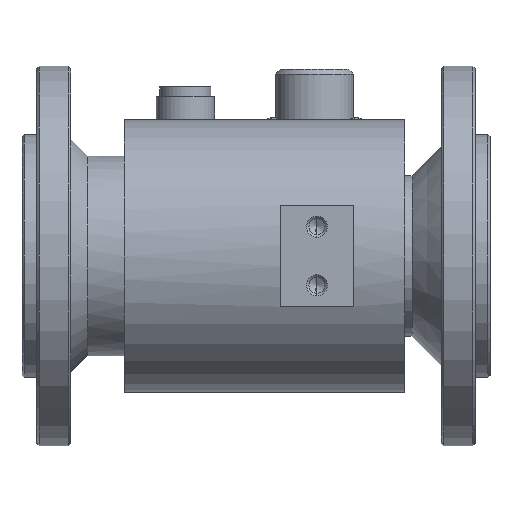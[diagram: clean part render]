
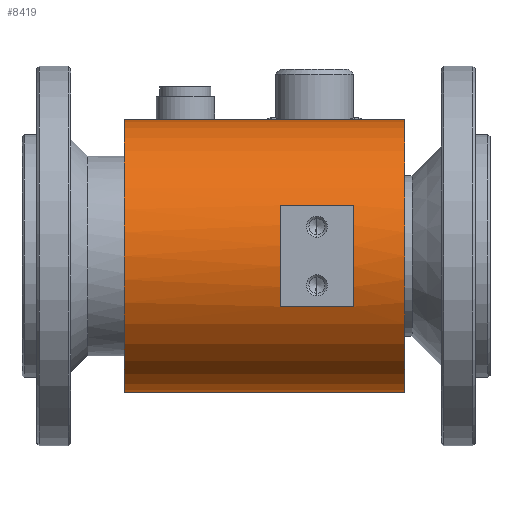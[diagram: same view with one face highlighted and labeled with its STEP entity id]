
A CAD part, front view. The second image highlights one B-rep face of the part: STEP entity #8419.
In plain terms, the highlighted cylindrical face has radius 28 mm (diameter 56 mm), a partial arc.
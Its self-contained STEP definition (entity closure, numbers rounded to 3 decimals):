
#1286 = EDGE_LOOP ( 'NONE', ( #7565, #16073, #10765, #4549 ) ) ;
#1337 = CARTESIAN_POINT ( 'NONE',  ( 57.5, 0., -28. ) ) ;
#1801 = VERTEX_POINT ( 'NONE', #1337 ) ;
#2001 = VECTOR ( 'NONE', #17707, 1000. ) ;
#2394 = CARTESIAN_POINT ( 'NONE',  ( 0., 0., -28. ) ) ;
#2567 = CARTESIAN_POINT ( 'NONE',  ( 0., -26., -10.392 ) ) ;
#2659 = LINE ( 'NONE', #2567, #12798 ) ;
#2733 = DIRECTION ( 'NONE',  ( 0., 0., -1. ) ) ;
#2752 = EDGE_CURVE ( 'NONE', #11807, #4304, #2659, .T. ) ;
#2783 = DIRECTION ( 'NONE',  ( 0., 0., -1. ) ) ;
#2786 = CARTESIAN_POINT ( 'NONE',  ( 32., 0., 0. ) ) ;
#3255 = AXIS2_PLACEMENT_3D ( 'NONE', #17638, #4119, #2783 ) ;
#3270 = EDGE_CURVE ( 'NONE', #13120, #11807, #5105, .T. ) ;
#3369 = AXIS2_PLACEMENT_3D ( 'NONE', #14129, #11379, #10026 ) ;
#3649 = AXIS2_PLACEMENT_3D ( 'NONE', #2786, #7247, #7070 ) ;
#3683 = FACE_OUTER_BOUND ( 'NONE', #5208, .T. ) ;
#4119 = DIRECTION ( 'NONE',  ( 1., 0., 0. ) ) ;
#4142 = CARTESIAN_POINT ( 'NONE',  ( 32., -26., -10.392 ) ) ;
#4304 = VERTEX_POINT ( 'NONE', #16472 ) ;
#4549 = ORIENTED_EDGE ( 'NONE', *, *, #15330, .F. ) ;
#4557 = CARTESIAN_POINT ( 'NONE',  ( 0., 0., 28. ) ) ;
#4560 = EDGE_CURVE ( 'NONE', #13458, #10879, #9903, .T. ) ;
#4592 = VECTOR ( 'NONE', #7048, 1000. ) ;
#5105 = CIRCLE ( 'NONE', #3649, 28. ) ;
#5208 = EDGE_LOOP ( 'NONE', ( #15575, #13816, #10464, #17403 ) ) ;
#5600 = CIRCLE ( 'NONE', #7018, 28. ) ;
#7018 = AXIS2_PLACEMENT_3D ( 'NONE', #13873, #15492, #7176 ) ;
#7048 = DIRECTION ( 'NONE',  ( 1., 0., 0. ) ) ;
#7070 = DIRECTION ( 'NONE',  ( 0., 0., 1. ) ) ;
#7176 = DIRECTION ( 'NONE',  ( 0., 0., -1. ) ) ;
#7199 = EDGE_CURVE ( 'NONE', #4304, #14979, #12286, .T. ) ;
#7247 = DIRECTION ( 'NONE',  ( 1., 0., 0. ) ) ;
#7565 = ORIENTED_EDGE ( 'NONE', *, *, #7199, .F. ) ;
#7939 = CIRCLE ( 'NONE', #3369, 28. ) ;
#8419 = ADVANCED_FACE ( 'NONE', ( #3683, #9152 ), #14600, .T. ) ;
#9152 = FACE_BOUND ( 'NONE', #1286, .T. ) ;
#9218 = CARTESIAN_POINT ( 'NONE',  ( 0., -26., 10.392 ) ) ;
#9219 = DIRECTION ( 'NONE',  ( 1., 0., 0. ) ) ;
#9712 = CARTESIAN_POINT ( 'NONE',  ( 47., 0., 0. ) ) ;
#9903 = LINE ( 'NONE', #4557, #4592 ) ;
#9926 = EDGE_CURVE ( 'NONE', #13458, #13445, #5600, .T. ) ;
#10026 = DIRECTION ( 'NONE',  ( 0., -0.924, -0.382 ) ) ;
#10464 = ORIENTED_EDGE ( 'NONE', *, *, #11111, .T. ) ;
#10504 = DIRECTION ( 'NONE',  ( 1., 0., 0. ) ) ;
#10513 = LINE ( 'NONE', #9218, #2001 ) ;
#10765 = ORIENTED_EDGE ( 'NONE', *, *, #3270, .F. ) ;
#10879 = VERTEX_POINT ( 'NONE', #13940 ) ;
#11111 = EDGE_CURVE ( 'NONE', #13445, #1801, #14836, .T. ) ;
#11379 = DIRECTION ( 'NONE',  ( 1., 0., 0. ) ) ;
#11804 = CARTESIAN_POINT ( 'NONE',  ( 0., 0., -28. ) ) ;
#11807 = VERTEX_POINT ( 'NONE', #4142 ) ;
#12286 = CIRCLE ( 'NONE', #13146, 28. ) ;
#12501 = CARTESIAN_POINT ( 'NONE',  ( 0., 0., 28. ) ) ;
#12798 = VECTOR ( 'NONE', #10504, 1000. ) ;
#12817 = CARTESIAN_POINT ( 'NONE',  ( 32., -26., 10.392 ) ) ;
#13034 = VECTOR ( 'NONE', #9219, 1000. ) ;
#13120 = VERTEX_POINT ( 'NONE', #12817 ) ;
#13146 = AXIS2_PLACEMENT_3D ( 'NONE', #9712, #16244, #2733 ) ;
#13445 = VERTEX_POINT ( 'NONE', #2394 ) ;
#13458 = VERTEX_POINT ( 'NONE', #12501 ) ;
#13816 = ORIENTED_EDGE ( 'NONE', *, *, #9926, .T. ) ;
#13873 = CARTESIAN_POINT ( 'NONE',  ( 0., 0., 0. ) ) ;
#13940 = CARTESIAN_POINT ( 'NONE',  ( 57.5, 0., 28. ) ) ;
#14129 = CARTESIAN_POINT ( 'NONE',  ( 57.5, 0., 0. ) ) ;
#14600 = CYLINDRICAL_SURFACE ( 'NONE', #3255, 28. ) ;
#14836 = LINE ( 'NONE', #11804, #13034 ) ;
#14931 = EDGE_CURVE ( 'NONE', #10879, #1801, #7939, .T. ) ;
#14979 = VERTEX_POINT ( 'NONE', #15667 ) ;
#15330 = EDGE_CURVE ( 'NONE', #14979, #13120, #10513, .T. ) ;
#15492 = DIRECTION ( 'NONE',  ( 1., 0., 0. ) ) ;
#15575 = ORIENTED_EDGE ( 'NONE', *, *, #4560, .F. ) ;
#15667 = CARTESIAN_POINT ( 'NONE',  ( 47., -26., 10.392 ) ) ;
#16073 = ORIENTED_EDGE ( 'NONE', *, *, #2752, .F. ) ;
#16244 = DIRECTION ( 'NONE',  ( -1., 0., 0. ) ) ;
#16472 = CARTESIAN_POINT ( 'NONE',  ( 47., -26., -10.392 ) ) ;
#17403 = ORIENTED_EDGE ( 'NONE', *, *, #14931, .F. ) ;
#17638 = CARTESIAN_POINT ( 'NONE',  ( 0., 0., 0. ) ) ;
#17707 = DIRECTION ( 'NONE',  ( -1., 0., 0. ) ) ;
